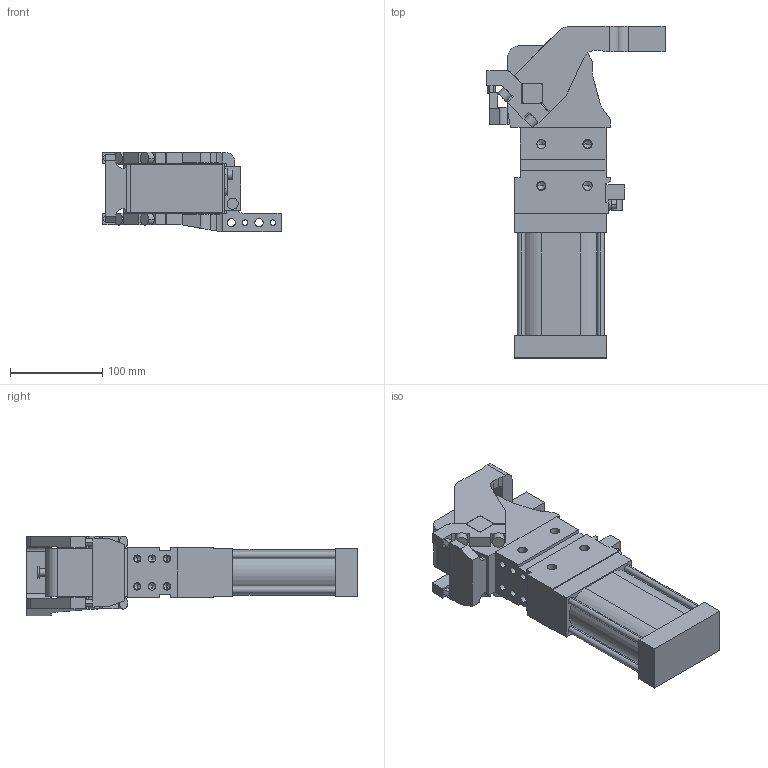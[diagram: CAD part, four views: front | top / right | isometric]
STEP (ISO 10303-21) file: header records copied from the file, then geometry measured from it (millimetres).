
FILE_DESCRIPTION (( 'STEP AP214' ), '1' );
FILE_NAME ('cpl63tv3dsi1g_26.STEP', '2023-01-26T11:00:09', ( '' ), ( '' ), 'SwSTEP 2.0', 'SolidWorks 2022', '' );
FILE_SCHEMA (( 'AUTOMOTIVE_DESIGN' ));
Length unit declared in the file: millimetre
Products named in the file (4): meccanica_cpl_63_tassello_esterno; cpl63tv3dsi1g_26; blocchetto_VEP_0; leva_v3ds_cpl63t
Assembly tree (3 placements, depth 2):
  cpl63tv3dsi1g_26
    meccanica_cpl_63_tassello_esterno
    blocchetto_VEP_0
    leva_v3ds_cpl63t
Bounding box: 193 x 359.5 x 86.5 mm (x, y, z)
Volume: 1851830.3 mm3; surface area: 203459.1 mm2
Topology: 3 solids, 3 shells, 435 faces, 1148 edges, 713 vertices
Faces by surface type: plane 231, cylinder 154, cone 50
Entity records: 14690 total; most frequent: CARTESIAN_POINT 2356, DIRECTION 2305, ORIENTED_EDGE 2204, EDGE_CURVE 1102, AXIS2_PLACEMENT_3D 776, VECTOR 753, LINE 753, VERTEX_POINT 713
